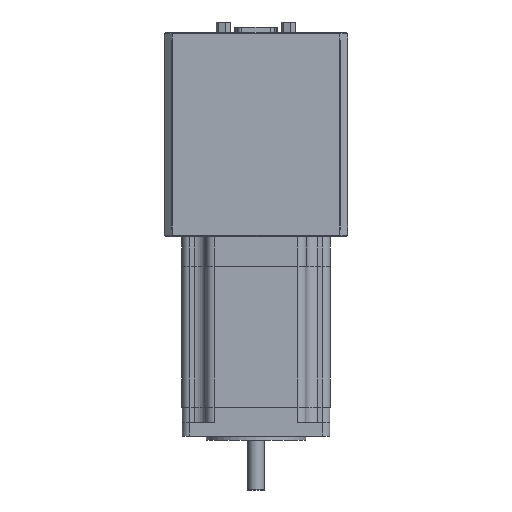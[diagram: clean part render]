
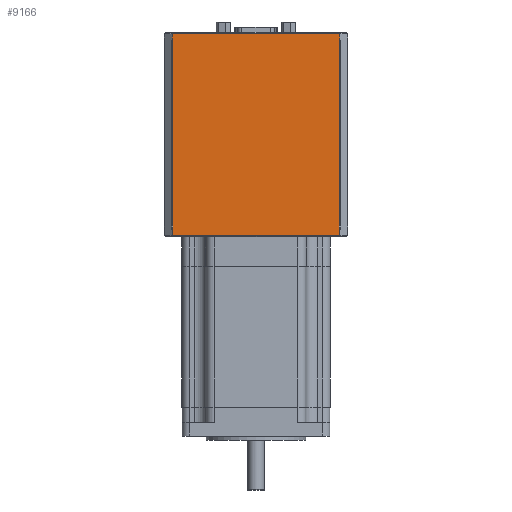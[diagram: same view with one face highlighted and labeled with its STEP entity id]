
A CAD part, front view. The second image highlights one B-rep face of the part: STEP entity #9166.
In plain terms, the highlighted planar face has unit normal (0, -1, 0).
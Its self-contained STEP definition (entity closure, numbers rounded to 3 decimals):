
#8887 = EDGE_CURVE ( 'NONE', #8888, #8946, #28963, .T. ) ;
#8888 = VERTEX_POINT ( 'NONE', #28959 ) ;
#8889 = VERTEX_POINT ( 'NONE', #28958 ) ;
#8903 = VERTEX_POINT ( 'NONE', #29132 ) ;
#8936 = ORIENTED_EDGE ( 'NONE', *, *, #8937, .T. ) ;
#8937 = EDGE_CURVE ( 'NONE', #9164, #8938, #29190, .T. ) ;
#8938 = VERTEX_POINT ( 'NONE', #29186 ) ;
#8939 = ORIENTED_EDGE ( 'NONE', *, *, #8940, .F. ) ;
#8940 = EDGE_CURVE ( 'NONE', #9159, #8938, #29120, .T. ) ;
#8943 = ORIENTED_EDGE ( 'NONE', *, *, #9158, .T. ) ;
#8944 = ORIENTED_EDGE ( 'NONE', *, *, #8945, .T. ) ;
#8945 = EDGE_CURVE ( 'NONE', #8903, #8946, #29101, .T. ) ;
#8946 = VERTEX_POINT ( 'NONE', #29097 ) ;
#8947 = ORIENTED_EDGE ( 'NONE', *, *, #8887, .F. ) ;
#9031 = ORIENTED_EDGE ( 'NONE', *, *, #9032, .T. ) ;
#9032 = EDGE_CURVE ( 'NONE', #9074, #9160, #29367, .T. ) ;
#9037 = ORIENTED_EDGE ( 'NONE', *, *, #9082, .T. ) ;
#9071 = VERTEX_POINT ( 'NONE', #29273 ) ;
#9072 = ORIENTED_EDGE ( 'NONE', *, *, #9073, .F. ) ;
#9073 = EDGE_CURVE ( 'NONE', #9074, #9071, #29272, .T. ) ;
#9074 = VERTEX_POINT ( 'NONE', #29268 ) ;
#9082 = EDGE_CURVE ( 'NONE', #9160, #9182, #29258, .T. ) ;
#9085 = ORIENTED_EDGE ( 'NONE', *, *, #9086, .T. ) ;
#9086 = EDGE_CURVE ( 'NONE', #8889, #9088, #29336, .T. ) ;
#9088 = VERTEX_POINT ( 'NONE', #29327 ) ;
#9091 = ORIENTED_EDGE ( 'NONE', *, *, #9092, .F. ) ;
#9092 = EDGE_CURVE ( 'NONE', #9071, #9088, #29320, .T. ) ;
#9100 = ORIENTED_EDGE ( 'NONE', *, *, #9101, .F. ) ;
#9101 = EDGE_CURVE ( 'NONE', #8889, #8888, #29410, .T. ) ;
#9144 = EDGE_CURVE ( 'NONE', #9164, #9182, #29706, .T. ) ;
#9158 = EDGE_CURVE ( 'NONE', #9159, #8903, #29520, .T. ) ;
#9159 = VERTEX_POINT ( 'NONE', #29516 ) ;
#9160 = VERTEX_POINT ( 'NONE', #29515 ) ;
#9164 = VERTEX_POINT ( 'NONE', #29508 ) ;
#9166 = ADVANCED_FACE ( 'NONE', ( #29507 ), #29506, .F. ) ;
#9167 = EDGE_LOOP ( 'NONE', ( #9188, #8936, #8939, #8943, #8944, #8947, #9100, #9085, #9091, #9072, #9031, #9037 ) ) ;
#9182 = VERTEX_POINT ( 'NONE', #29557 ) ;
#9188 = ORIENTED_EDGE ( 'NONE', *, *, #9144, .F. ) ;
#28958 = CARTESIAN_POINT ( 'NONE',  ( 35.995, -27.108, 79. ) ) ;
#28959 = CARTESIAN_POINT ( 'NONE',  ( 36.202, -27.108, 79. ) ) ;
#28960 = DIRECTION ( 'NONE',  ( 0., 0., -1. ) ) ;
#28961 = VECTOR ( 'NONE', #28960, 1000. ) ;
#28962 = CARTESIAN_POINT ( 'NONE',  ( 36.202, -27.108, 80. ) ) ;
#28963 = LINE ( 'NONE', #28962, #28961 ) ;
#29097 = CARTESIAN_POINT ( 'NONE',  ( 36.202, -27.108, 76.4 ) ) ;
#29098 = DIRECTION ( 'NONE',  ( 1., 0., 0. ) ) ;
#29099 = VECTOR ( 'NONE', #29098, 1000. ) ;
#29100 = CARTESIAN_POINT ( 'NONE',  ( 36.202, -27.108, 76.4 ) ) ;
#29101 = LINE ( 'NONE', #29100, #29099 ) ;
#29117 = DIRECTION ( 'NONE',  ( 1., 0., 0. ) ) ;
#29118 = VECTOR ( 'NONE', #29117, 1000. ) ;
#29119 = CARTESIAN_POINT ( 'NONE',  ( 36.202, -27.108, 79. ) ) ;
#29120 = LINE ( 'NONE', #29119, #29118 ) ;
#29132 = CARTESIAN_POINT ( 'NONE',  ( -27.798, -27.108, 76.4 ) ) ;
#29186 = CARTESIAN_POINT ( 'NONE',  ( -27.591, -27.108, 79. ) ) ;
#29187 = DIRECTION ( 'NONE',  ( 0., 0., -1. ) ) ;
#29188 = VECTOR ( 'NONE', #29187, 1000. ) ;
#29189 = CARTESIAN_POINT ( 'NONE',  ( -27.591, -27.108, 151. ) ) ;
#29190 = LINE ( 'NONE', #29189, #29188 ) ;
#29255 = DIRECTION ( 'NONE',  ( 0., 0., -1. ) ) ;
#29256 = VECTOR ( 'NONE', #29255, 1000. ) ;
#29257 = CARTESIAN_POINT ( 'NONE',  ( -27.798, -27.108, 154. ) ) ;
#29258 = LINE ( 'NONE', #29257, #29256 ) ;
#29268 = CARTESIAN_POINT ( 'NONE',  ( 36.202, -27.108, 153.6 ) ) ;
#29269 = DIRECTION ( 'NONE',  ( 0., 0., -1. ) ) ;
#29270 = VECTOR ( 'NONE', #29269, 1000. ) ;
#29271 = CARTESIAN_POINT ( 'NONE',  ( 36.202, -27.108, 154. ) ) ;
#29272 = LINE ( 'NONE', #29271, #29270 ) ;
#29273 = CARTESIAN_POINT ( 'NONE',  ( 36.202, -27.108, 151. ) ) ;
#29317 = DIRECTION ( 'NONE',  ( -1., 0., 0. ) ) ;
#29318 = VECTOR ( 'NONE', #29317, 1000. ) ;
#29319 = CARTESIAN_POINT ( 'NONE',  ( 36.202, -27.108, 151. ) ) ;
#29320 = LINE ( 'NONE', #29319, #29318 ) ;
#29327 = CARTESIAN_POINT ( 'NONE',  ( 35.995, -27.108, 151. ) ) ;
#29333 = DIRECTION ( 'NONE',  ( 0., 0., 1. ) ) ;
#29334 = VECTOR ( 'NONE', #29333, 1000. ) ;
#29335 = CARTESIAN_POINT ( 'NONE',  ( 35.995, -27.108, 151. ) ) ;
#29336 = LINE ( 'NONE', #29335, #29334 ) ;
#29364 = DIRECTION ( 'NONE',  ( -1., 0., 0. ) ) ;
#29365 = VECTOR ( 'NONE', #29364, 1000. ) ;
#29366 = CARTESIAN_POINT ( 'NONE',  ( 36.202, -27.108, 153.6 ) ) ;
#29367 = LINE ( 'NONE', #29366, #29365 ) ;
#29406 = DIRECTION ( 'NONE',  ( 1., 0., 0. ) ) ;
#29407 = VECTOR ( 'NONE', #29406, 1000. ) ;
#29408 = CARTESIAN_POINT ( 'NONE',  ( 36.202, -27.108, 79. ) ) ;
#29410 = LINE ( 'NONE', #29408, #29407 ) ;
#29501 = DIRECTION ( 'NONE',  ( -1., 0., 0. ) ) ;
#29502 = DIRECTION ( 'NONE',  ( 0., 1., 0. ) ) ;
#29503 = AXIS2_PLACEMENT_3D ( 'NONE', #29505, #29502, #29501 ) ;
#29505 = CARTESIAN_POINT ( 'NONE',  ( 36.202, -27.108, 154. ) ) ;
#29506 = PLANE ( 'NONE',  #29503 ) ;
#29507 = FACE_OUTER_BOUND ( 'NONE', #9167, .T. ) ;
#29508 = CARTESIAN_POINT ( 'NONE',  ( -27.591, -27.108, 151. ) ) ;
#29515 = CARTESIAN_POINT ( 'NONE',  ( -27.798, -27.108, 153.6 ) ) ;
#29516 = CARTESIAN_POINT ( 'NONE',  ( -27.798, -27.108, 79. ) ) ;
#29517 = DIRECTION ( 'NONE',  ( 0., 0., -1. ) ) ;
#29518 = VECTOR ( 'NONE', #29517, 1000. ) ;
#29519 = CARTESIAN_POINT ( 'NONE',  ( -27.798, -27.108, 80. ) ) ;
#29520 = LINE ( 'NONE', #29519, #29518 ) ;
#29557 = CARTESIAN_POINT ( 'NONE',  ( -27.798, -27.108, 151. ) ) ;
#29703 = DIRECTION ( 'NONE',  ( -1., 0., 0. ) ) ;
#29704 = VECTOR ( 'NONE', #29703, 1000. ) ;
#29705 = CARTESIAN_POINT ( 'NONE',  ( 36.202, -27.108, 151. ) ) ;
#29706 = LINE ( 'NONE', #29705, #29704 ) ;
